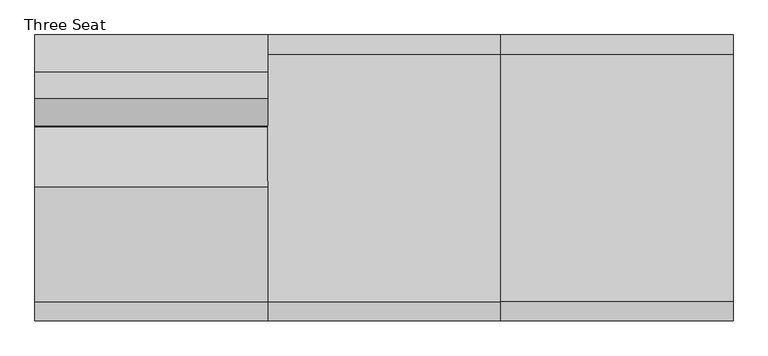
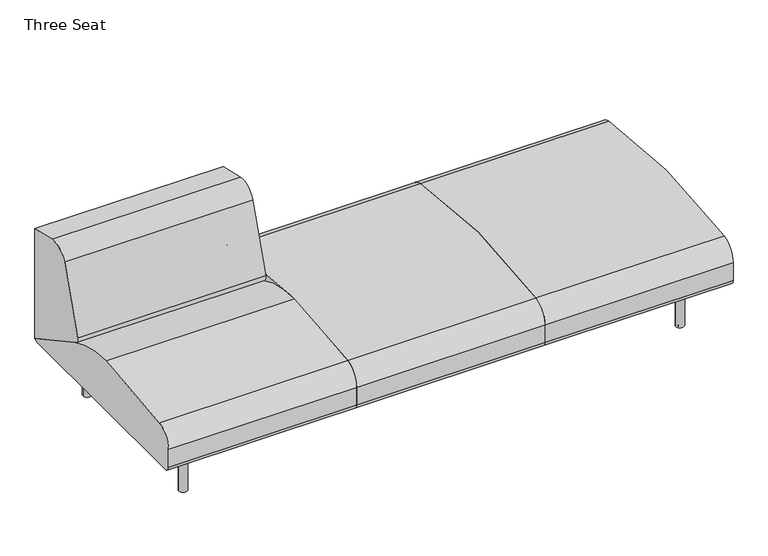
"""IFC4 building model written with IfcOpenShell, lengths in millimetres: furniture geometry, Coalesse_AM_Seating_LoungeChair_Sistema_LegBase_ThreeSeat : Three Seat."""

import ifcopenshell
import ifcopenshell.guid

model = None  # the IFC model being written
_history = None  # IfcOwnerHistory: only IFC2X3 demands one
_inside = {}  # id of a spatial element -> (the spatial element, [elements in it])
_under = {}  # id of a project, library or spatial element -> (it, [spatial elements below it])
_declared = {}  # id of a project -> (the project, [libraries it declares])
_typed = {}  # id of a type object -> (the type object, [elements of that type])
_made_of = {}  # id of a material, layer set ... -> (it, [elements and type objects made of it])


def new_model(schema):
    """Start an empty IFC model of exactly this schema.

    Asked for "IFC4X3", IfcOpenShell would pick the latest addendum, in which some entities
    have other attributes; the version numbers below select the first issue.
    IFC2X3 requires an IfcOwnerHistory on every rooted entity: one is made here for all.
    """
    global model, _history
    if schema == "IFC4X3":
        model = ifcopenshell.file(schema_version=(4, 3, 0, 0))
    else:
        model = ifcopenshell.file(schema=schema)
    _inside.clear()
    _under.clear()
    _declared.clear()
    _typed.clear()
    _made_of.clear()
    _history = None
    if model.schema == "IFC2X3":
        org = make("IfcOrganization", Name="unknown")
        user = make(
            "IfcPersonAndOrganization",
            ThePerson=make("IfcPerson", FamilyName="unknown"),
            TheOrganization=org,
        )
        app = make(
            "IfcApplication",
            ApplicationDeveloper=org,
            Version="unknown",
            ApplicationFullName="unknown",
            ApplicationIdentifier="unknown",
        )
        _history = make(
            "IfcOwnerHistory",
            OwningUser=user,
            OwningApplication=app,
            ChangeAction="ADDED",
            CreationDate=0,
        )
    return model


def make(cls, **values):
    """One entity of the class cls with the attributes given. An attribute that is None is left unset."""
    return model.create_entity(
        cls, **{name: value for name, value in values.items() if value is not None}
    )


def rooted(cls, **values):
    """An entity with a GlobalId (a new one), such as an element, a storey or a relation."""
    return make(cls, GlobalId=ifcopenshell.guid.new(), OwnerHistory=_history, **values)


def si_unit(unit_type, name, prefix=None):
    """IfcSIUnit, for example si_unit("LENGTHUNIT", "METRE", prefix="MILLI")."""
    return make("IfcSIUnit", UnitType=unit_type, Prefix=prefix, Name=name)


def assignment(units):
    """IfcUnitAssignment: the units of a project."""
    return None if units is None else make("IfcUnitAssignment", Units=units)


def point(xyz):
    """IfcCartesianPoint."""
    return None if xyz is None else make("IfcCartesianPoint", Coordinates=xyz)


def direction(xyz):
    """IfcDirection."""
    return None if xyz is None else make("IfcDirection", DirectionRatios=xyz)


def frame(location, z_axis=None, x_axis=None):
    """IfcAxis2Placement3D, a coordinate frame: its origin and axes. An axis left out is left unset."""
    return make(
        "IfcAxis2Placement3D",
        Location=point(location),
        Axis=direction(z_axis),
        RefDirection=direction(x_axis),
    )


def frame_2d(location, x_axis=None):
    """IfcAxis2Placement2D, a coordinate frame in the plane: its origin and x axis."""
    return make(
        "IfcAxis2Placement2D", Location=point(location), RefDirection=direction(x_axis)
    )


def origin():
    """The frame at (0, 0, 0) with its axes left unset."""
    return frame((0.0, 0.0, 0.0))


def origin_with_axes():
    """The frame at (0, 0, 0) with the z axis (0, 0, 1) and the x axis (1, 0, 0) written out."""
    return frame((0.0, 0.0, 0.0), z_axis=(0.0, 0.0, 1.0), x_axis=(1.0, 0.0, 0.0))


def place(relative_to, where):
    """IfcLocalPlacement: puts the frame where relative to a parent placement (None: the world)."""
    return make(
        "IfcLocalPlacement", PlacementRelTo=relative_to, RelativePlacement=where
    )


def context(
    kind, dimensions, precision=None, world=None, true_north=None, identifier=None
):
    """IfcGeometricRepresentationContext, for example the 3D "Model" context."""
    return make(
        "IfcGeometricRepresentationContext",
        ContextIdentifier=identifier,
        ContextType=kind,
        CoordinateSpaceDimension=dimensions,
        Precision=precision,
        WorldCoordinateSystem=world,
        TrueNorth=true_north,
    )


def project(units=None, contexts=None):
    """IfcProject with its units and contexts."""
    return rooted(
        "IfcProject",
        Name="project",
        RepresentationContexts=contexts,
        UnitsInContext=assignment(units),
    )


def spatial(cls, under=None, at=None, **own):
    """A site, building, storey or space (cls), placed at a placement, below another one or the project."""
    s = rooted(cls, ObjectPlacement=at, **own)
    if under is not None:
        _under.setdefault(under.id(), (under, []))[1].append(s)
    return s


def polyline(points):
    """IfcPolyline through the points."""
    return make("IfcPolyline", Points=[point(p) for p in points])


def circle_curve(where, radius):
    """IfcCircle in the frame where."""
    return make("IfcCircle", Position=where, Radius=radius)


def trimmed(basis, trim1, trim2, sense, master):
    """IfcTrimmedCurve: the piece of a basis curve between two trims."""
    return make(
        "IfcTrimmedCurve",
        BasisCurve=basis,
        Trim1=trim1,
        Trim2=trim2,
        SenseAgreement=sense,
        MasterRepresentation=master,
    )


def segment(curve, same_sense, transition):
    """IfcCompositeCurveSegment."""
    return make(
        "IfcCompositeCurveSegment",
        Transition=transition,
        SameSense=same_sense,
        ParentCurve=curve,
    )


def composite_curve(segments, self_intersect=None):
    """IfcCompositeCurve: segments joined end to end."""
    return make("IfcCompositeCurve", Segments=segments, SelfIntersect=self_intersect)


def outline(outer, holes=None, kind="AREA"):
    """IfcArbitraryClosedProfileDef: a profile drawn as a closed curve; with holes, ...WithVoids."""
    if holes is None:
        return make("IfcArbitraryClosedProfileDef", ProfileType=kind, OuterCurve=outer)
    return make(
        "IfcArbitraryProfileDefWithVoids",
        ProfileType=kind,
        OuterCurve=outer,
        InnerCurves=holes,
    )


def extrude(swept, where, along, depth):
    """IfcExtrudedAreaSolid: the profile swept, set in the frame where, extruded along a direction by depth."""
    return make(
        "IfcExtrudedAreaSolid",
        SweptArea=swept,
        Position=where,
        ExtrudedDirection=direction(along),
        Depth=depth,
    )


def shape(context_of_items, identifier, shape_type, items):
    """IfcShapeRepresentation: the items that make up one representation, for example the "Body"."""
    return make(
        "IfcShapeRepresentation",
        ContextOfItems=context_of_items,
        RepresentationIdentifier=identifier,
        RepresentationType=shape_type,
        Items=items,
    )


def source(mapping_origin, context_of_items, identifier, shape_type, items):
    """IfcRepresentationMap: a shape defined once, which mapped items show again and again."""
    return make(
        "IfcRepresentationMap",
        MappingOrigin=mapping_origin,
        MappedRepresentation=shape(context_of_items, identifier, shape_type, items),
    )


def transform(
    local_origin,
    x_axis=None,
    y_axis=None,
    z_axis=None,
    scale=None,
    scale2=None,
    scale3=None,
    uniform=True,
):
    """IfcCartesianTransformationOperator3D, or its non-uniform kind. x_axis, y_axis, z_axis: its Axis1, 2, 3."""
    if uniform:
        return make(
            "IfcCartesianTransformationOperator3D",
            Axis1=direction(x_axis),
            Axis2=direction(y_axis),
            LocalOrigin=point(local_origin),
            Scale=scale,
            Axis3=direction(z_axis),
        )
    return make(
        "IfcCartesianTransformationOperator3DnonUniform",
        Axis1=direction(x_axis),
        Axis2=direction(y_axis),
        LocalOrigin=point(local_origin),
        Scale=scale,
        Axis3=direction(z_axis),
        Scale2=scale2,
        Scale3=scale3,
    )


def mapped(mapping_source, mapping_target):
    """IfcMappedItem: shows the shape of a source again, moved by a transform."""
    return make(
        "IfcMappedItem", MappingSource=mapping_source, MappingTarget=mapping_target
    )


def made_of(thing, what):
    """Note that an element or type object is made of a material, layer set ...; save() writes the relation."""
    if what is not None:
        _made_of.setdefault(what.id(), (what, []))[1].append(thing)
    return thing


def element(
    cls,
    number,
    at=None,
    inside=None,
    cuts=None,
    type_object=None,
    material=None,
    context=None,
    identifier="Body",
    shape_type=None,
    held_by="IfcProductDefinitionShape",
    body=None,
    shapes=None,
    **own,
):
    """One element of the class cls, such as IfcWall. Its Tag is "e" and its number.

    at: its placement. inside: the storey or other place that contains it. cuts: it is an
    opening in that element (IfcRelVoidsElement). A single representation is given by context,
    identifier, shape_type and body (its items); several are given by shapes. held_by: the class
    of the entity that holds the representations. save() writes the other relations.
    """
    e = rooted(cls, Tag="e%d" % number, ObjectPlacement=at, **own)
    if body is not None:
        shapes = [shape(context, identifier, shape_type, body)]
    if shapes is not None:
        e.Representation = make(held_by, Representations=shapes)
    if inside is not None:
        _inside.setdefault(inside.id(), (inside, []))[1].append(e)
    if cuts is not None:
        rooted(
            "IfcRelVoidsElement", RelatingBuildingElement=cuts, RelatedOpeningElement=e
        )
    if type_object is not None:
        _typed.setdefault(type_object.id(), (type_object, []))[1].append(e)
    return made_of(e, material)


def aggregate(whole, parts):
    """IfcRelAggregates: a whole, such as a stair, and the parts it consists of."""
    return rooted("IfcRelAggregates", RelatingObject=whole, RelatedObjects=parts)


def save(model, path):
    """Write the relations noted so far, then the file.

    IfcRelAggregates (storeys below a building ...), IfcRelContainedInSpatialStructure (elements
    in a storey), IfcRelDefinesByType, IfcRelAssociatesMaterial and IfcRelDeclares: one each for
    every whole, place, type object, material and project.
    """
    for whole, parts in _under.values():
        aggregate(whole, parts)
    for where, things in _inside.values():
        rooted(
            "IfcRelContainedInSpatialStructure",
            RelatedElements=things,
            RelatingStructure=where,
        )
    for kind, things in _typed.values():
        rooted("IfcRelDefinesByType", RelatedObjects=things, RelatingType=kind)
    for what, things in _made_of.values():
        rooted("IfcRelAssociatesMaterial", RelatedObjects=things, RelatingMaterial=what)
    for by, libraries in _declared.values():
        rooted("IfcRelDeclares", RelatingContext=by, RelatedDefinitions=libraries)
    model.write(path)


def three_seat_df7bb091(model_context):
    return source(origin(), model_context, "Body", "SweptSolid", [
        extrude(outline(composite_curve([segment(polyline([(459.4795619, 673.6041325), (459.4795619, 228.1929806)]), True, "CONTINUOUS"), segment(trimmed(circle_curve(frame_2d((191.495971, 228.1929806)), 267.983591), [point((459.4795619, 228.1929806))], [point((458.9860775, 211.937276))], False, "CARTESIAN"), True, "CONTINUOUS"), segment(polyline([(458.9860775, 211.937276), (177.4990556, 364.1028799)]), True, "CONTINUOUS"), segment(trimmed(circle_curve(frame_2d((189.5778307, 386.4470781)), 25.4), [point((177.4990556, 364.1028799))], [point((164.9600055, 392.7018911))], False, "CARTESIAN"), True, "CONTINUOUS"), segment(trimmed(circle_curve(frame_2d((1918.112812, -52.7331923)), 1808.8552115), [point((164.9600055, 392.7018911))], [point((254.1018253, 656.5090883))], False, "CARTESIAN"), True, "CONTINUOUS"), segment(trimmed(circle_curve(frame_2d((324.2001043, 626.6314831)), 76.2), [point((254.1018253, 656.5090883))], [point((341.3413746, 700.8784821))], False, "CARTESIAN"), True, "CONTINUOUS"), segment(polyline([(341.3413746, 700.8784821), (459.4795619, 673.6041325)]), True, "CONTINUOUS")], self_intersect=False)), frame((-374.8034773, 0.0, 0.0), z_axis=(1.0, 0.0, 0.0), x_axis=(0.0, 1.0, 0.0)), (0.0, 0.0, 1.0), 749.3),
        extrude(outline(composite_curve([segment(trimmed(circle_curve(frame_2d((-438.9184381, 226.822)), 22.352), [point((-438.9184381, 204.47))], [point((-461.2704381, 226.822))], False, "CARTESIAN"), True, "CONTINUOUS"), segment(polyline([(-461.2704381, 226.822), (-461.2704381, 301.4421993)]), True, "CONTINUOUS"), segment(trimmed(circle_curve(frame_2d((-385.0704381, 301.4421993)), 76.2), [point((-461.2704381, 301.4421993))], [point((-398.9277015, 376.3716077))], False, "CARTESIAN"), True, "CONTINUOUS"), segment(trimmed(circle_curve(frame_2d((2.2103559, -1792.6740646)), 2205.8265729), [point((-398.9277015, 376.3716077))], [point((-31.1968175, 412.8995185))], False, "CARTESIAN"), True, "CONTINUOUS"), segment(trimmed(circle_curve(frame_2d((-24.5128424, -28.3829182)), 441.333054), [point((-31.1968175, 412.8995185))], [point((184.5757008, 360.2774035))], False, "CARTESIAN"), True, "CONTINUOUS"), segment(polyline([(184.5757008, 360.2774035), (458.9860775, 211.937276)]), True, "CONTINUOUS"), segment(trimmed(circle_curve(frame_2d((442.3266309, 226.7871991)), 22.3171991), [point((458.9860775, 211.937276))], [point((442.3266309, 204.47))], False, "CARTESIAN"), True, "CONTINUOUS"), segment(polyline([(442.3266309, 204.47), (-438.9184381, 204.47)]), True, "CONTINUOUS")], self_intersect=False)), frame((-374.8034773, 0.0, 0.0), z_axis=(1.0, 0.0, 0.0), x_axis=(0.0, 1.0, 0.0)), (0.0, 0.0, 1.0), 749.3),
        extrude(outline(composite_curve([segment(trimmed(circle_curve(frame_2d((-438.9184381, 226.822)), 22.352), [point((-438.9184381, 204.47))], [point((-461.2704381, 226.822))], False, "CARTESIAN"), True, "CONTINUOUS"), segment(polyline([(-461.2704381, 226.822), (-461.2704381, 301.4421993)]), True, "CONTINUOUS"), segment(trimmed(circle_curve(frame_2d((-385.0704381, 301.4421993)), 76.2), [point((-461.2704381, 301.4421993))], [point((-398.9279534, 376.3715612))], False, "CARTESIAN"), True, "CONTINUOUS"), segment(trimmed(circle_curve(frame_2d((-0.3717831, -1778.6727457)), 2191.5891461), [point((-398.9279534, 376.3715612))], [point((397.0993513, 376.5719464))], False, "CARTESIAN"), True, "CONTINUOUS"), segment(trimmed(circle_curve(frame_2d((383.2795619, 301.6356173)), 76.2), [point((397.0993513, 376.5719464))], [point((459.4795619, 301.6356173))], False, "CARTESIAN"), True, "CONTINUOUS"), segment(polyline([(459.4795619, 301.6356173), (459.4795619, 226.7871991)]), True, "CONTINUOUS"), segment(trimmed(circle_curve(frame_2d((437.1623628, 226.7871991)), 22.3171991), [point((459.4795619, 226.7871991))], [point((437.1623628, 204.47))], False, "CARTESIAN"), True, "CONTINUOUS"), segment(polyline([(437.1623628, 204.47), (-438.9184381, 204.47)]), True, "CONTINUOUS")], self_intersect=False)), frame((374.4965227, 0.0, 0.0), z_axis=(1.0, 0.0, 0.0), x_axis=(0.0, 1.0, 0.0)), (0.0, 0.0, 1.0), 749.3),
        extrude(outline(composite_curve([segment(trimmed(circle_curve(frame_2d((-438.9184381, 226.822)), 22.352), [point((-438.9184381, 204.47))], [point((-461.2704381, 226.822))], False, "CARTESIAN"), True, "CONTINUOUS"), segment(polyline([(-461.2704381, 226.822), (-461.2704381, 301.4421993)]), True, "CONTINUOUS"), segment(trimmed(circle_curve(frame_2d((-385.0704381, 301.4421993)), 76.2), [point((-461.2704381, 301.4421993))], [point((-398.9279534, 376.3715612))], False, "CARTESIAN"), True, "CONTINUOUS"), segment(trimmed(circle_curve(frame_2d((-0.3717831, -1778.6727457)), 2191.5891461), [point((-398.9279534, 376.3715612))], [point((397.0993513, 376.5719464))], False, "CARTESIAN"), True, "CONTINUOUS"), segment(trimmed(circle_curve(frame_2d((383.2795619, 301.6356173)), 76.2), [point((397.0993513, 376.5719464))], [point((459.4795619, 301.6356173))], False, "CARTESIAN"), True, "CONTINUOUS"), segment(polyline([(459.4795619, 301.6356173), (459.4795619, 226.7871991)]), True, "CONTINUOUS"), segment(trimmed(circle_curve(frame_2d((437.1623628, 226.7871991)), 22.3171991), [point((459.4795619, 226.7871991))], [point((437.1623628, 204.47))], False, "CARTESIAN"), True, "CONTINUOUS"), segment(polyline([(437.1623628, 204.47), (-438.9184381, 204.47)]), True, "CONTINUOUS")], self_intersect=False)), frame((1123.7965227, 0.0, 0.0), z_axis=(1.0, 0.0, 0.0), x_axis=(0.0, 1.0, 0.0)), (0.0, 0.0, 1.0), 749.3),
        extrude(outline(composite_curve([segment(trimmed(circle_curve(frame_2d((1738.4765227, 335.9943389)), 6.096), [point((1744.5725227, 335.9943389))], [point((1732.3805227, 335.9943389))], False, "CARTESIAN"), True, "CONTINUOUS"), segment(trimmed(circle_curve(frame_2d((1738.4765227, 335.9943389)), 6.096), [point((1732.3805227, 335.9943389))], [point((1744.5725227, 335.9943389))], False, "CARTESIAN"), True, "CONTINUOUS")], self_intersect=False)), origin_with_axes(), (0.0, 0.0, 1.0), 4.3662291),
        extrude(outline(composite_curve([segment(trimmed(circle_curve(frame_2d((1738.4765227, -327.2630889)), 6.096), [point((1744.5725227, -327.2630889))], [point((1732.3805227, -327.2630889))], False, "CARTESIAN"), True, "CONTINUOUS"), segment(trimmed(circle_curve(frame_2d((1738.4765227, -327.2630889)), 6.096), [point((1732.3805227, -327.2630889))], [point((1744.5725227, -327.2630889))], False, "CARTESIAN"), True, "CONTINUOUS")], self_intersect=False)), origin_with_axes(), (0.0, 0.0, 1.0), 4.3662291),
        extrude(outline(composite_curve([segment(polyline([(157.0399209, 1751.056375), (201.7356243, 1751.056375)]), True, "CONTINUOUS"), segment(trimmed(circle_curve(frame_2d((201.7356243, 1748.008375)), 3.048), [point((201.7356243, 1751.056375))], [point((204.7836243, 1748.008375))], False, "CARTESIAN"), True, "CONTINUOUS"), segment(polyline([(204.7836243, 1748.008375), (204.7836243, 1728.666199)]), True, "CONTINUOUS"), segment(trimmed(circle_curve(frame_2d((201.7356243, 1728.666199)), 3.048), [point((204.7836243, 1728.666199))], [point((201.7356243, 1725.618199))], False, "CARTESIAN"), True, "CONTINUOUS"), segment(polyline([(201.7356243, 1725.618199), (157.1249936, 1725.618199)]), True, "CONTINUOUS"), segment(trimmed(circle_curve(frame_2d((157.1249936, 1728.7512718)), 3.1330728), [point((157.1249936, 1725.618199))], [point((153.9919209, 1728.7512718))], False, "CARTESIAN"), True, "CONTINUOUS"), segment(polyline([(153.9919209, 1728.7512718), (153.9919209, 1748.008375)]), True, "CONTINUOUS"), segment(trimmed(circle_curve(frame_2d((157.0399209, 1748.008375)), 3.048), [point((153.9919209, 1748.008375))], [point((157.0399209, 1751.056375))], False, "CARTESIAN"), True, "CONTINUOUS")], self_intersect=False)), frame((0.0, 222.3519802, 0.0), z_axis=(0.0, 1.0, 0.0), x_axis=(0.0, 0.0, 1.0)), (0.0, 0.0, 1.0), 92.6273161),
        extrude(outline(composite_curve([segment(polyline([(157.0399209, 1751.056375), (201.7356243, 1751.056375)]), True, "CONTINUOUS"), segment(trimmed(circle_curve(frame_2d((201.7356243, 1748.008375)), 3.048), [point((201.7356243, 1751.056375))], [point((204.7836243, 1748.008375))], False, "CARTESIAN"), True, "CONTINUOUS"), segment(polyline([(204.7836243, 1748.008375), (204.7836243, 1728.666199)]), True, "CONTINUOUS"), segment(trimmed(circle_curve(frame_2d((201.7356243, 1728.666199)), 3.048), [point((204.7836243, 1728.666199))], [point((201.7356243, 1725.618199))], False, "CARTESIAN"), True, "CONTINUOUS"), segment(polyline([(201.7356243, 1725.618199), (157.1249936, 1725.618199)]), True, "CONTINUOUS"), segment(trimmed(circle_curve(frame_2d((157.1249936, 1728.7512718)), 3.1330728), [point((157.1249936, 1725.618199))], [point((153.9919209, 1728.7512718))], False, "CARTESIAN"), True, "CONTINUOUS"), segment(polyline([(153.9919209, 1728.7512718), (153.9919209, 1748.008375)]), True, "CONTINUOUS"), segment(trimmed(circle_curve(frame_2d((157.0399209, 1748.008375)), 3.048), [point((153.9919209, 1748.008375))], [point((157.0399209, 1751.056375))], False, "CARTESIAN"), True, "CONTINUOUS")], self_intersect=False)), frame((0.0, -314.9792963, 0.0), z_axis=(0.0, 1.0, 0.0), x_axis=(0.0, 0.0, 1.0)), (0.0, 0.0, 1.0), 92.6273161),
        extrude(outline(composite_curve([segment(trimmed(circle_curve(frame_2d((176.3356606, 1715.8259944)), 3.048), [point((179.3836606, 1715.8259944))], [point((176.3356606, 1712.7779944))], False, "CARTESIAN"), True, "CONTINUOUS"), segment(polyline([(176.3356606, 1712.7779944), (157.0399209, 1712.7779944)]), True, "CONTINUOUS"), segment(trimmed(circle_curve(frame_2d((157.0399209, 1715.8259944)), 3.048), [point((157.0399209, 1712.7779944))], [point((153.9919209, 1715.8259944))], False, "CARTESIAN"), True, "CONTINUOUS"), segment(polyline([(153.9919209, 1715.8259944), (153.9919209, 1760.5135501)]), True, "CONTINUOUS"), segment(trimmed(circle_curve(frame_2d((157.056462, 1760.5135501)), 3.0645412), [point((153.9919209, 1760.5135501))], [point((157.056462, 1763.5780913))], False, "CARTESIAN"), True, "CONTINUOUS"), segment(polyline([(157.056462, 1763.5780913), (176.3356606, 1763.5780913)]), True, "CONTINUOUS"), segment(trimmed(circle_curve(frame_2d((176.3356606, 1760.5300913)), 3.048), [point((176.3356606, 1763.5780913))], [point((179.3836606, 1760.5300913))], False, "CARTESIAN"), True, "CONTINUOUS"), segment(polyline([(179.3836606, 1760.5300913), (179.3836606, 1715.8259944)]), True, "CONTINUOUS")], self_intersect=False)), frame((0.0, -222.3519802, 0.0), z_axis=(0.0, 1.0, 0.0), x_axis=(0.0, 0.0, 1.0)), (0.0, 0.0, 1.0), 444.7039604),
        extrude(outline(composite_curve([segment(trimmed(circle_curve(frame_2d((1738.4765227, 332.3095741)), 16.51), [point((1754.9865227, 332.3095741))], [point((1721.9665227, 332.3095741))], False, "CARTESIAN"), True, "CONTINUOUS"), segment(trimmed(circle_curve(frame_2d((1738.4765227, 332.3095741)), 16.51), [point((1721.9665227, 332.3095741))], [point((1754.9865227, 332.3095741))], False, "CARTESIAN"), True, "CONTINUOUS")], self_intersect=False)), frame((0.0, 0.0, 4.3662291), z_axis=(0.0, 0.0, 1.0), x_axis=(1.0, 0.0, 0.0)), (0.0, 0.0, 1.0), 200.1037709),
        extrude(outline(composite_curve([segment(trimmed(circle_curve(frame_2d((1738.0796477, -327.5470741)), 16.51), [point((1754.5896477, -327.5470741))], [point((1721.5696477, -327.5470741))], False, "CARTESIAN"), True, "CONTINUOUS"), segment(trimmed(circle_curve(frame_2d((1738.0796477, -327.5470741)), 16.51), [point((1721.5696477, -327.5470741))], [point((1754.5896477, -327.5470741))], False, "CARTESIAN"), True, "CONTINUOUS")], self_intersect=False)), frame((0.0, 0.0, 4.3662291), z_axis=(0.0, 0.0, 1.0), x_axis=(1.0, 0.0, 0.0)), (0.0, 0.0, 1.0), 200.1037709),
        extrude(outline(composite_curve([segment(trimmed(circle_curve(frame_2d((-240.1834773, 335.9943389)), 6.096), [point((-246.2794773, 335.9943389))], [point((-234.0874773, 335.9943389))], False, "CARTESIAN"), True, "CONTINUOUS"), segment(trimmed(circle_curve(frame_2d((-240.1834773, 335.9943389)), 6.096), [point((-234.0874773, 335.9943389))], [point((-246.2794773, 335.9943389))], False, "CARTESIAN"), True, "CONTINUOUS")], self_intersect=False)), origin_with_axes(), (0.0, 0.0, 1.0), 4.3662291),
        extrude(outline(composite_curve([segment(trimmed(circle_curve(frame_2d((-240.1834773, -327.2630889)), 6.096), [point((-246.2794773, -327.2630889))], [point((-234.0874773, -327.2630889))], False, "CARTESIAN"), True, "CONTINUOUS"), segment(trimmed(circle_curve(frame_2d((-240.1834773, -327.2630889)), 6.096), [point((-234.0874773, -327.2630889))], [point((-246.2794773, -327.2630889))], False, "CARTESIAN"), True, "CONTINUOUS")], self_intersect=False)), origin_with_axes(), (0.0, 0.0, 1.0), 4.3662291),
        extrude(outline(composite_curve([segment(trimmed(circle_curve(frame_2d((157.0399209, -249.7153296)), 3.048), [point((157.0399209, -252.7633296))], [point((153.9919209, -249.7153296))], False, "CARTESIAN"), True, "CONTINUOUS"), segment(polyline([(153.9919209, -249.7153296), (153.9919209, -230.4582264)]), True, "CONTINUOUS"), segment(trimmed(circle_curve(frame_2d((157.1249936, -230.4582264)), 3.1330728), [point((153.9919209, -230.4582264))], [point((157.1249936, -227.3251537))], False, "CARTESIAN"), True, "CONTINUOUS"), segment(polyline([(157.1249936, -227.3251537), (201.7356243, -227.3251537)]), True, "CONTINUOUS"), segment(trimmed(circle_curve(frame_2d((201.7356243, -230.3731537)), 3.048), [point((201.7356243, -227.3251537))], [point((204.7836243, -230.3731537))], False, "CARTESIAN"), True, "CONTINUOUS"), segment(polyline([(204.7836243, -230.3731537), (204.7836243, -249.7153296)]), True, "CONTINUOUS"), segment(trimmed(circle_curve(frame_2d((201.7356243, -249.7153296)), 3.048), [point((204.7836243, -249.7153296))], [point((201.7356243, -252.7633296))], False, "CARTESIAN"), True, "CONTINUOUS"), segment(polyline([(201.7356243, -252.7633296), (157.0399209, -252.7633296)]), True, "CONTINUOUS")], self_intersect=False)), frame((0.0, 222.3519802, 0.0), z_axis=(0.0, 1.0, 0.0), x_axis=(0.0, 0.0, 1.0)), (0.0, 0.0, 1.0), 92.6273161),
        extrude(outline(composite_curve([segment(trimmed(circle_curve(frame_2d((157.0399209, -249.7153296)), 3.048), [point((157.0399209, -252.7633296))], [point((153.9919209, -249.7153296))], False, "CARTESIAN"), True, "CONTINUOUS"), segment(polyline([(153.9919209, -249.7153296), (153.9919209, -230.4582264)]), True, "CONTINUOUS"), segment(trimmed(circle_curve(frame_2d((157.1249936, -230.4582264)), 3.1330728), [point((153.9919209, -230.4582264))], [point((157.1249936, -227.3251537))], False, "CARTESIAN"), True, "CONTINUOUS"), segment(polyline([(157.1249936, -227.3251537), (201.7356243, -227.3251537)]), True, "CONTINUOUS"), segment(trimmed(circle_curve(frame_2d((201.7356243, -230.3731537)), 3.048), [point((201.7356243, -227.3251537))], [point((204.7836243, -230.3731537))], False, "CARTESIAN"), True, "CONTINUOUS"), segment(polyline([(204.7836243, -230.3731537), (204.7836243, -249.7153296)]), True, "CONTINUOUS"), segment(trimmed(circle_curve(frame_2d((201.7356243, -249.7153296)), 3.048), [point((204.7836243, -249.7153296))], [point((201.7356243, -252.7633296))], False, "CARTESIAN"), True, "CONTINUOUS"), segment(polyline([(201.7356243, -252.7633296), (157.0399209, -252.7633296)]), True, "CONTINUOUS")], self_intersect=False)), frame((0.0, -314.9792963, 0.0), z_axis=(0.0, 1.0, 0.0), x_axis=(0.0, 0.0, 1.0)), (0.0, 0.0, 1.0), 92.6273161),
        extrude(outline(composite_curve([segment(polyline([(179.3836606, -217.532949), (179.3836606, -262.2370459)]), True, "CONTINUOUS"), segment(trimmed(circle_curve(frame_2d((176.3356606, -262.2370459)), 3.048), [point((179.3836606, -262.2370459))], [point((176.3356606, -265.2850459))], False, "CARTESIAN"), True, "CONTINUOUS"), segment(polyline([(176.3356606, -265.2850459), (157.056462, -265.2850459)]), True, "CONTINUOUS"), segment(trimmed(circle_curve(frame_2d((157.056462, -262.2205047)), 3.0645412), [point((157.056462, -265.2850459))], [point((153.9919209, -262.2205047))], False, "CARTESIAN"), True, "CONTINUOUS"), segment(polyline([(153.9919209, -262.2205047), (153.9919209, -217.532949)]), True, "CONTINUOUS"), segment(trimmed(circle_curve(frame_2d((157.0399209, -217.532949)), 3.048), [point((153.9919209, -217.532949))], [point((157.0399209, -214.484949))], False, "CARTESIAN"), True, "CONTINUOUS"), segment(polyline([(157.0399209, -214.484949), (176.3356606, -214.484949)]), True, "CONTINUOUS"), segment(trimmed(circle_curve(frame_2d((176.3356606, -217.532949)), 3.048), [point((176.3356606, -214.484949))], [point((179.3836606, -217.532949))], False, "CARTESIAN"), True, "CONTINUOUS")], self_intersect=False)), frame((0.0, -222.3519802, 0.0), z_axis=(0.0, 1.0, 0.0), x_axis=(0.0, 0.0, 1.0)), (0.0, 0.0, 1.0), 444.7039604),
        extrude(outline(composite_curve([segment(trimmed(circle_curve(frame_2d((-240.1834773, 332.3095741)), 16.51), [point((-256.6934773, 332.3095741))], [point((-223.6734773, 332.3095741))], False, "CARTESIAN"), True, "CONTINUOUS"), segment(trimmed(circle_curve(frame_2d((-240.1834773, 332.3095741)), 16.51), [point((-223.6734773, 332.3095741))], [point((-256.6934773, 332.3095741))], False, "CARTESIAN"), True, "CONTINUOUS")], self_intersect=False)), frame((0.0, 0.0, 4.3662291), z_axis=(0.0, 0.0, 1.0), x_axis=(1.0, 0.0, 0.0)), (0.0, 0.0, 1.0), 200.1037709),
        extrude(outline(composite_curve([segment(trimmed(circle_curve(frame_2d((-239.7866023, -327.5470741)), 16.51), [point((-256.2966023, -327.5470741))], [point((-223.2766023, -327.5470741))], False, "CARTESIAN"), True, "CONTINUOUS"), segment(trimmed(circle_curve(frame_2d((-239.7866023, -327.5470741)), 16.51), [point((-223.2766023, -327.5470741))], [point((-256.2966023, -327.5470741))], False, "CARTESIAN"), True, "CONTINUOUS")], self_intersect=False)), frame((0.0, 0.0, 4.3662291), z_axis=(0.0, 0.0, 1.0), x_axis=(1.0, 0.0, 0.0)), (0.0, 0.0, 1.0), 200.1037709),
    ])


if __name__ == "__main__":
    model = new_model("IFC4")
    model_context = context("Model", 3, world=origin())
    ifc_project = project(units=[si_unit("LENGTHUNIT", "METRE", prefix="MILLI")], contexts=[model_context])
    site = spatial("IfcSite", under=ifc_project)
    building = spatial("IfcBuilding", under=site)
    placement = place(None, origin())
    three_seat_shape = three_seat_df7bb091(model_context)
    element("IfcFurniture", 1, ObjectType="Coalesse_AM_Seating_LoungeChair_Sistema_LegBase_ThreeSeat : Three Seat", at=placement, inside=building, context=model_context, shape_type="MappedRepresentation", body=[
        mapped(three_seat_shape, transform((0.0, 0.0, 0.0), x_axis=(1.0, 0.0, 0.0), y_axis=(0.0, 1.0, 0.0), z_axis=(0.0, 0.0, 1.0))),
    ])
    save(model, "model.ifc")
